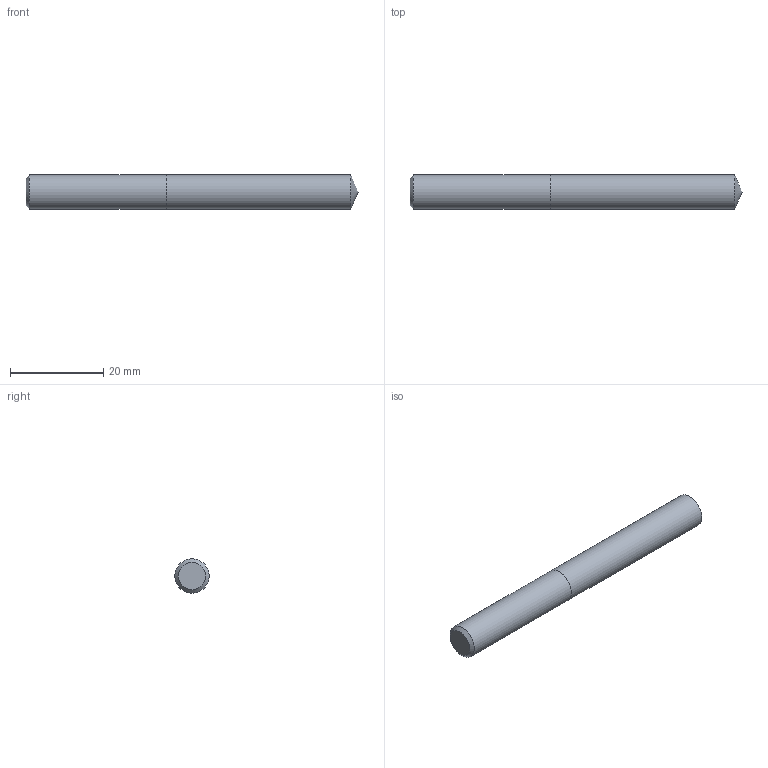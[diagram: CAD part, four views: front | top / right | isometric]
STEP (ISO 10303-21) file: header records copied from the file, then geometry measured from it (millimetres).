
FILE_DESCRIPTION (( 'STEP AP214' ), '1' );
FILE_NAME ('03-2328.STEP', '2022-06-03T06:16:50', ( 'USER' ), ( '' ), 'SwSTEP 2.0', 'SolidWorks 2018', '' );
FILE_SCHEMA (( 'AUTOMOTIVE_DESIGN' ));
Length unit declared in the file: inch
Products named in the file (1): 03-2328
Bounding box: 71.38 x 7.37 x 7.37 mm (x, y, z)
Volume: 2992.4 mm3; surface area: 1779.7 mm2
Topology: 2 solids, 2 shells, 7 faces, 11 edges, 7 vertices
Faces by surface type: plane 3, cylinder 2, cone 2
Full cylindrical faces by diameter (mm): 7.366 x2
Entity records: 214 total; most frequent: DIRECTION 26, CARTESIAN_POINT 18, AXIS2_PLACEMENT_3D 13, ORIENTED_EDGE 10, EDGE_LOOP 10, FACE_OUTER_BOUND 9, UNCERTAINTY_MEASURE_WITH_UNIT 7, ADVANCED_FACE 7
